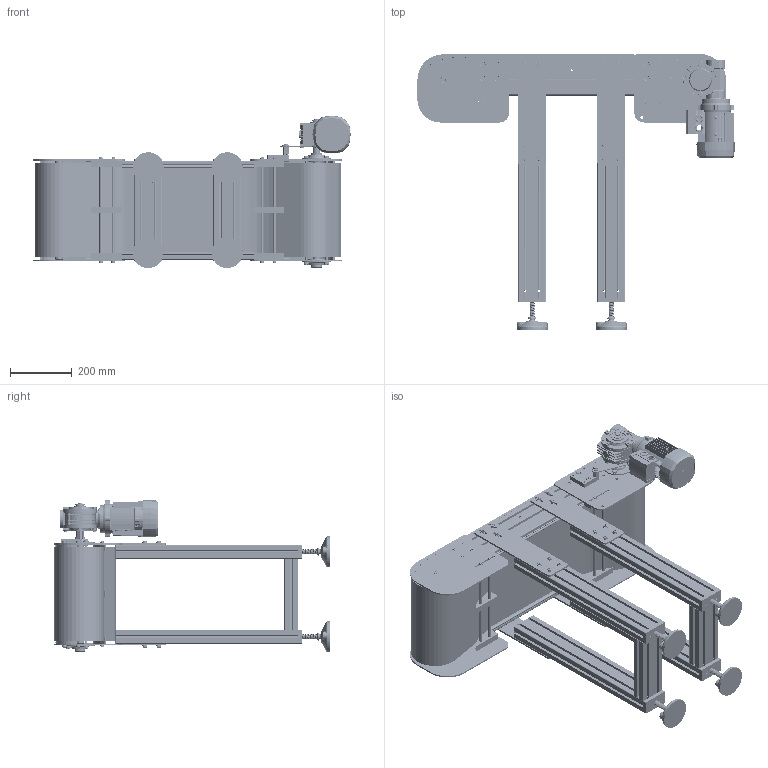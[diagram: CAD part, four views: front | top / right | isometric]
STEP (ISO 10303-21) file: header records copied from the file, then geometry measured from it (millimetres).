
FILE_DESCRIPTION (( 'STEP AP214' ), '1' );
FILE_NAME ('NASTRO_CATENA.step', '2026-05-11T09:43:32', ( 'Utente Windows' ), ( '' ), 'SwSTEP 2.0', 'SolidWorks 2024', '' );
FILE_SCHEMA (( 'AUTOMOTIVE_DESIGN' ));
Length unit declared in the file: millimetre
Products named in the file (48): VITI TE UNI 5739 INOX_M8x20 UNI 5739 INOX; RONDELLE FASCIA LARGA UNI 6593 INOX_8.4x32 UNI 6593 INOX; 2000.001.016; 2000.1200.201-1; 084.301.000 VITI ALUSIC1_084.301.003; RONDELLE UNI 6592_8.4x17 UNI 6592; K1200_R_P; 084.709.002_084.709.002; 2000.1200.103-1; K1200_TT_1_Default<A macchina>; VITI TE UNI 5739 INOX_M6x12 UNI 5739 INOX; FLANGIA_GAMBE_K750_CON GIUNTI; 084.808.004; CH05P_DX; 2000.1200.104; VITI TCEI UNI 5931 INOX_M8x25 UNI 5931 INOX; RUOTE DI TRAINO NS882_NS882T12R25; K1200_DIR_49_P_DX_MOTORE A DESTRA; RONDELLE UNI 6592 INOX_6.4x12.5 UNI 6592 INOX; 2000.882.750; 2000.001.013; 084.302.000 DADI ALUSIC 13x13-1_084.302.004; RONDELLE UNI 6592 INOX_8.4x18 UNI 6592 INOX; CATENA_DIRITTO; GAMBE_K750_Default<A macchina>; 2000.001.017; VITI TE UNI 5739 INOX_M6x20 UNI 5739 INOX; PIEDE_K750; VITI TSEI UNI 5933 INOX_0825UNI5933A2; 084.405.001; VITI TSEI UNI 5933 INOX_0420UNI5933A2; 2000.001.102-1; 084.402.005; 084.201.019-2; VITI TSEI UNI 5933 INOX_0816UNI5933A2; 084.302.000 DADI ALUSIC LUNGHI_084.302.016; 2000.001.015-1; 2000.001.014-1; RONDELLE FASCIA LARGA UNI 6593 INOX_8.4x24 UNI 6593 INOX; GRANI A PUNTA PIATTA UNI 5923 INOX_M8x20 UNI 5923 INOX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
Assembly tree (153 placements, depth 3):
  NASTRO_CATENA
    K1200_TT_1_Default<A macchina>
    K1200_DIR_49_P_DX_MOTORE A DESTRA
      2000.001.013
      2000.001.014-1  x2
      2000.001.015-1  x3
      084.802.027
      2000.1200.103-1
      084.808.004
      2000.001.102-1
      2000.1200.104  x2
      2000.001.016  x2
      2000.001.017
      SBPF 205  x2
      RUOTE DI TRAINO NS882_NS882T12R25
      CHIAVETTE_A 8x7x70 UNI 6604-69
      VITI TSEI UNI 5933 INOX_0816UNI5933A2  x6
      VITI TCEI UNI 5931 INOX_M8x25 UNI 5931 INOX  x2
      GRANI A PUNTA PIATTA UNI 5923 INOX_M8x20 UNI 5923 INOX
      RONDELLE FASCIA LARGA UNI 6593 INOX_8.4x24 UNI 6593 INOX
      RONDELLE UNI 6592 INOX_8.4x18 UNI 6592 INOX  x6
      VITI TSEI UNI 5933 INOX_0420UNI5933A2  x8
      RONDELLE UNI 6592 INOX_6.4x12.5 UNI 6592 INOX  x4
      VITI TE UNI 5739 INOX_M6x20 UNI 5739 INOX  x4
      RONDELLE FASCIA LARGA UNI 6593 INOX_8.4x32 UNI 6593 INOX
      VITI TE UNI 5739 INOX_M8x20 UNI 5739 INOX  x8
      VITI TE UNI 5739 INOX_M6x12 UNI 5739 INOX  x4
      084.302.016  x4
    K1200_R_P
      2000.001.014-1  x2
      2000.1200.201-1
      2000.1200.104  x2
      2000.001.210
      2000.001.211
      2000.001.016  x2
      2000.001.015-1  x3
      RUOTE DI TRAINO NS882_NS882T12R25
      VITI TSEI UNI 5933 INOX_0420UNI5933A2  x8
      RONDELLE UNI 6592 INOX_6.4x12.5 UNI 6592 INOX  x4
      VITI TE UNI 5739 INOX_M6x20 UNI 5739 INOX  x4
      VITI TSEI UNI 5933 INOX_0825UNI5933A2  x2
      084.302.000 DADI ALUSIC LUNGHI_084.302.016  x4
      VITI TSEI UNI 5933 INOX_0820UNI5933A2  x8
    GAMBE_K750_Default<A macchina>  x2
    FLANGIA_GAMBE_K750_CON GIUNTI  x4
      084.709.002_084.709.002
      084.302.000 DADI ALUSIC 13x13-1_084.302.004
      RONDELLE UNI 6592_8.4x17 UNI 6592
      084.301.000 VITI ALUSIC1_084.301.003
    PIEDE_K750  x4
      084.405.001
      084.402.005
      084.301.000 VITI ALUSIC1_084.301.003
    084.201.019-2  x4
    CH05P_DX
    CATENA_DIRITTO
    2000.882.750
Bounding box: 1026.8 x 892.03 x 492.7 mm (x, y, z)
Volume: 18998016.4 mm3; surface area: 7725503.1 mm2
Topology: 230 solids, 233 shells, 9072 faces, 23266 edges, 14740 vertices
Faces by surface type: cylinder 3848, plane 3440, cone 707, bspline 548, torus 493, sphere 36
Entity records: 178540 total; most frequent: CARTESIAN_POINT 63779, ORIENTED_EDGE 24168, DIRECTION 23345, EDGE_CURVE 12093, AXIS2_PLACEMENT_3D 8514, VERTEX_POINT 7693, LINE 6317, VECTOR 6317
